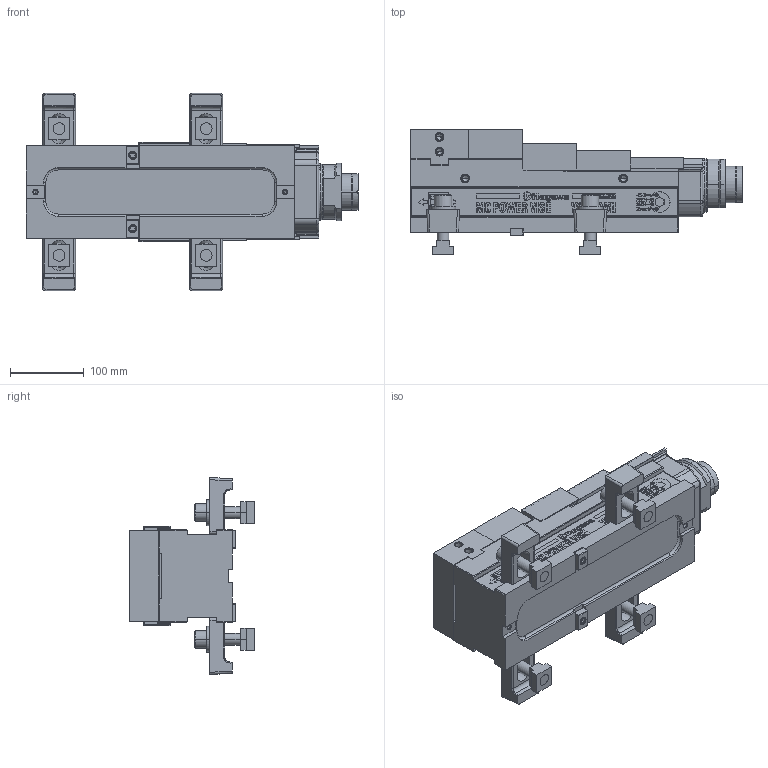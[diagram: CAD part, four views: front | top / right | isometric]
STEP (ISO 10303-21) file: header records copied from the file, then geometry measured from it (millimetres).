
FILE_DESCRIPTION (( 'STEP AP214' ), '1' );
FILE_NAME ('VQX125N_C.STEP', '2023-08-04T07:45:42', ( '' ), ( '' ), 'SwSTEP 2.0', 'SolidWorks 2020', '' );
FILE_SCHEMA (( 'AUTOMOTIVE_DESIGN' ));
Length unit declared in the file: millimetre
Products named in the file (19): ボデー(61M2235828)VQX125; クランプクミタテ(61M420565); スプリングケース(61M2340671)VQX125; 僕儑乕F(61M3964420)VQX125N; Bアナツキ M16×65; 儚僢僔儍丂16乮61M4266330乯; VQX125Nホンタイ; 僗儔僀僪僇僶乕Y(61M8018012)VQX125N; VQX125N_C; 僒僀僪僔乕儖R(61M8170660); 僕儑乕M(61俵3964430)VQX125N; スリーブ他(61M3231673)VQ100; 僗儔僀僪僇僶乕X(61M8018002)VQX125N; カバアリング(61M4267331)VQX125; ガイドブロック(61M4197783); T僗儘僢僩僫僢僩俿俶俵侾俉侾俇; 僗儔僀僪僇僶乕Z(61M8018021)VQX125N; クランプ(61M3159626)VP160; 僒僀僪僔乕儖L(61M8170670)
Assembly tree (22 placements, depth 3):
  VQX125N_C
    VQX125Nホンタイ
      ボデー(61M2235828)VQX125
      ガイドブロック(61M4197783)  x2
      スプリングケース(61M2340671)VQX125
      カバアリング(61M4267331)VQX125
      スリーブ他(61M3231673)VQ100
      僕儑乕F(61M3964420)VQX125N
      僕儑乕M(61俵3964430)VQX125N
      僗儔僀僪僇僶乕X(61M8018002)VQX125N
      僗儔僀僪僇僶乕Y(61M8018012)VQX125N
      僗儔僀僪僇僶乕Z(61M8018021)VQX125N
      僒僀僪僔乕儖L(61M8170670)
      僒僀僪僔乕儖R(61M8170660)
    クランプクミタテ(61M420565)  x4
      クランプ(61M3159626)VP160
      儚僢僔儍丂16乮61M4266330乯
      Bアナツキ M16×65
      T僗儘僢僩僫僢僩俿俶俵侾俉侾俇
Bounding box: 451.5 x 169.5 x 268 mm (x, y, z)
Volume: 5819373.2 mm3; surface area: 605649.5 mm2
Topology: 29 solids, 29 shells, 1178 faces, 5343 edges, 4503 vertices
Faces by surface type: plane 797, cylinder 248, cone 103, torus 18, bspline 12
Entity records: 60064 total; most frequent: CARTESIAN_POINT 15071, ORIENTED_EDGE 9596, DIRECTION 6856, EDGE_CURVE 4798, VERTEX_POINT 4173, LINE 3816, VECTOR 3816, AXIS2_PLACEMENT_3D 1520
